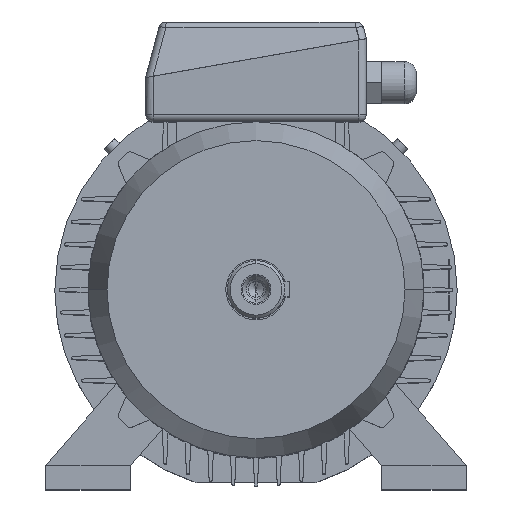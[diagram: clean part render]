
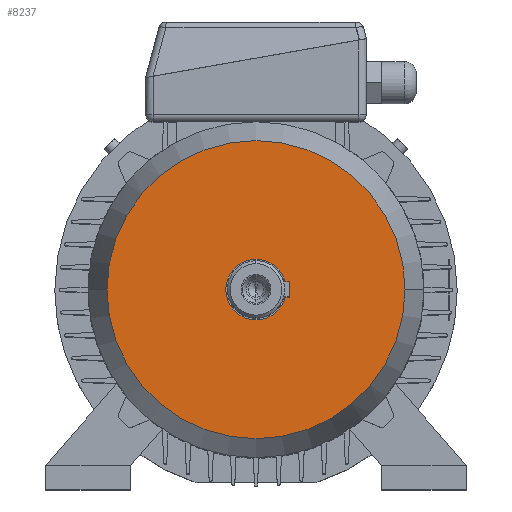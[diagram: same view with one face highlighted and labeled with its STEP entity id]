
A CAD part, top view. The second image highlights one B-rep face of the part: STEP entity #8237.
In plain terms, the highlighted planar face has unit normal (0, 0, 1).
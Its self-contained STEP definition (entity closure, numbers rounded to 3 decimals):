
#17146 = EDGE_CURVE ( 'NONE', #18950, #11693, #9688, .T. ) ;
#1031 = ORIENTED_EDGE ( 'NONE', *, *, #17146, .F. ) ;
#17845 = CIRCLE ( 'NONE', #17846, 98.5 ) ;
#17846 = AXIS2_PLACEMENT_3D ( 'NONE', #17847, #17848, #17849 ) ;
#17847 = CARTESIAN_POINT ( 'NONE',  ( 0., 0., 47. ) ) ;
#17848 = DIRECTION ( 'NONE',  ( 0., 0., -1. ) ) ;
#17849 = DIRECTION ( 'NONE',  ( -1., 0., 0. ) ) ;
#1640 = EDGE_LOOP ( 'NONE', ( #1031, #7478 ) ) ;
#18946 = FACE_OUTER_BOUND ( 'NONE', #1640, .T. ) ;
#18947 = PLANE ( 'NONE',  #18948 ) ;
#18948 = AXIS2_PLACEMENT_3D ( 'NONE', #18949, #18960, #18961 ) ;
#18949 = CARTESIAN_POINT ( 'NONE',  ( 0., 98.5, 47. ) ) ;
#18950 = VERTEX_POINT ( 'NONE', #10716 ) ;
#18960 = DIRECTION ( 'NONE',  ( 0., 0., 1. ) ) ;
#18961 = DIRECTION ( 'NONE',  ( 1., 0., 0. ) ) ;
#3596 = CARTESIAN_POINT ( 'NONE',  ( 98.5, 0., 47. ) ) ;
#7029 = EDGE_CURVE ( 'NONE', #11693, #18950, #17845, .T. ) ;
#7478 = ORIENTED_EDGE ( 'NONE', *, *, #7029, .F. ) ;
#8237 = ADVANCED_FACE ( 'NONE', ( #18946 ), #18947, .T. ) ;
#9688 = CIRCLE ( 'NONE', #9689, 98.5 ) ;
#9689 = AXIS2_PLACEMENT_3D ( 'NONE', #9690, #9691, #9692 ) ;
#9690 = CARTESIAN_POINT ( 'NONE',  ( 0., 0., 47. ) ) ;
#9691 = DIRECTION ( 'NONE',  ( 0., 0., -1. ) ) ;
#9692 = DIRECTION ( 'NONE',  ( -1., 0., 0. ) ) ;
#10716 = CARTESIAN_POINT ( 'NONE',  ( -98.5, 0., 47. ) ) ;
#11693 = VERTEX_POINT ( 'NONE', #3596 ) ;
